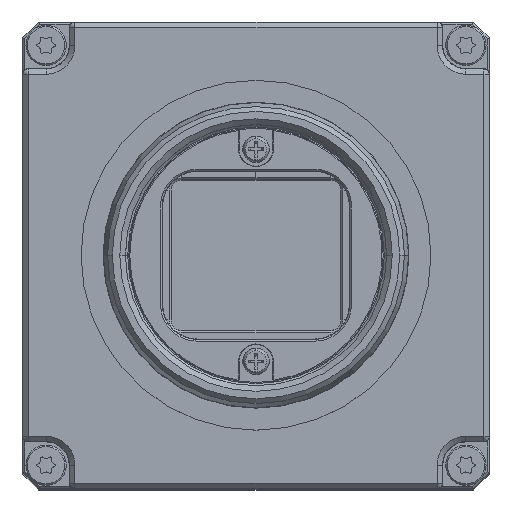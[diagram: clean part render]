
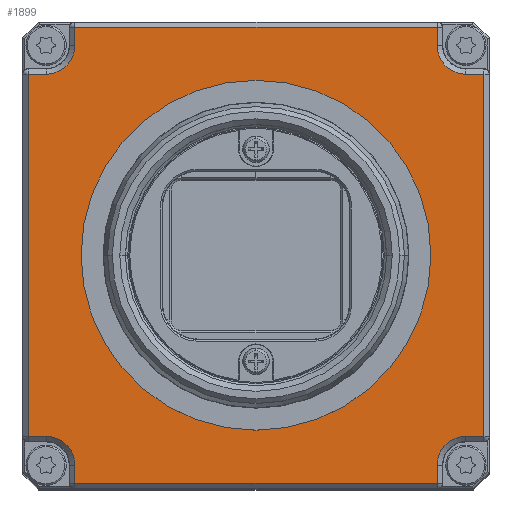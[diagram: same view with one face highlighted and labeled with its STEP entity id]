
A CAD part, top view. The second image highlights one B-rep face of the part: STEP entity #1899.
In plain terms, the highlighted planar face has unit normal (0, 0, 1).
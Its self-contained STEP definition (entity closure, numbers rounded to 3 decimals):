
#68 = VERTEX_POINT ( 'NONE', #13217 ) ;
#119 = CARTESIAN_POINT ( 'NONE',  ( 0., 0., 10.3 ) ) ;
#227 = AXIS2_PLACEMENT_3D ( 'NONE', #3981, #16248, #7164 ) ;
#256 = EDGE_CURVE ( 'NONE', #4277, #19617, #3229, .T. ) ;
#445 = DIRECTION ( 'NONE',  ( 1., 0., 0. ) ) ;
#492 = AXIS2_PLACEMENT_3D ( 'NONE', #7019, #13968, #21543 ) ;
#704 = VECTOR ( 'NONE', #13664, 1000. ) ;
#776 = CARTESIAN_POINT ( 'NONE',  ( 17.065, -21.5, 10.3 ) ) ;
#1015 = CARTESIAN_POINT ( 'NONE',  ( -21.5, 17.074, 10.3 ) ) ;
#1035 = CIRCLE ( 'NONE', #3951, 16.5 ) ;
#1262 = CARTESIAN_POINT ( 'NONE',  ( 21.5, -17.074, 10.3 ) ) ;
#1665 = LINE ( 'NONE', #13731, #7959 ) ;
#1710 = EDGE_CURVE ( 'NONE', #68, #19182, #18414, .T. ) ;
#1789 = ORIENTED_EDGE ( 'NONE', *, *, #13455, .T. ) ;
#1811 = EDGE_CURVE ( 'NONE', #7156, #18669, #9795, .T. ) ;
#1859 = CARTESIAN_POINT ( 'NONE',  ( 19.8, 19.8, 10.3 ) ) ;
#1899 = ADVANCED_FACE ( 'NONE', ( #17828, #11350 ), #21460, .T. ) ;
#1985 = EDGE_CURVE ( 'NONE', #7977, #15657, #11688, .T. ) ;
#2062 = VERTEX_POINT ( 'NONE', #18495 ) ;
#2178 = CARTESIAN_POINT ( 'NONE',  ( -17.065, 21.5, 10.3 ) ) ;
#2211 = LINE ( 'NONE', #9134, #20066 ) ;
#2435 = CARTESIAN_POINT ( 'NONE',  ( -19.8, 17.074, 10.3 ) ) ;
#2441 = ORIENTED_EDGE ( 'NONE', *, *, #1811, .F. ) ;
#2593 = CARTESIAN_POINT ( 'NONE',  ( 21.5, -17.074, 10.3 ) ) ;
#2816 = ORIENTED_EDGE ( 'NONE', *, *, #17441, .T. ) ;
#2904 = ORIENTED_EDGE ( 'NONE', *, *, #11485, .T. ) ;
#2936 = LINE ( 'NONE', #776, #18261 ) ;
#2946 = CARTESIAN_POINT ( 'NONE',  ( 0., 0., 10.3 ) ) ;
#2978 = CARTESIAN_POINT ( 'NONE',  ( 21.5, 17.074, 10.3 ) ) ;
#3053 = CARTESIAN_POINT ( 'NONE',  ( -17.074, 19.8, 10.3 ) ) ;
#3157 = EDGE_CURVE ( 'NONE', #18669, #7156, #1035, .T. ) ;
#3229 = LINE ( 'NONE', #12980, #18541 ) ;
#3289 = CARTESIAN_POINT ( 'NONE',  ( -21.5, -17.074, 10.3 ) ) ;
#3658 = EDGE_CURVE ( 'NONE', #10002, #10578, #1665, .T. ) ;
#3951 = AXIS2_PLACEMENT_3D ( 'NONE', #2946, #20425, #13297 ) ;
#3981 = CARTESIAN_POINT ( 'NONE',  ( -19.8, 19.8, 10.3 ) ) ;
#4277 = VERTEX_POINT ( 'NONE', #3289 ) ;
#4386 = ORIENTED_EDGE ( 'NONE', *, *, #21601, .T. ) ;
#4429 = CARTESIAN_POINT ( 'NONE',  ( 0., 0., 10.3 ) ) ;
#4467 = AXIS2_PLACEMENT_3D ( 'NONE', #1859, #7199, #5152 ) ;
#4535 = CARTESIAN_POINT ( 'NONE',  ( 19.8, 17.074, 10.3 ) ) ;
#4717 = VECTOR ( 'NONE', #6687, 1000. ) ;
#4928 = CIRCLE ( 'NONE', #227, 2.726 ) ;
#5039 = CARTESIAN_POINT ( 'NONE',  ( -19.8, -17.074, 10.3 ) ) ;
#5111 = CARTESIAN_POINT ( 'NONE',  ( 16.5, 0., 10.3 ) ) ;
#5152 = DIRECTION ( 'NONE',  ( 1., 0., 0. ) ) ;
#5204 = EDGE_CURVE ( 'NONE', #2062, #10002, #10472, .T. ) ;
#5468 = ORIENTED_EDGE ( 'NONE', *, *, #14800, .T. ) ;
#5645 = EDGE_CURVE ( 'NONE', #20479, #68, #14289, .T. ) ;
#5685 = DIRECTION ( 'NONE',  ( 1., 0., 0. ) ) ;
#6069 = ORIENTED_EDGE ( 'NONE', *, *, #5204, .T. ) ;
#6246 = ORIENTED_EDGE ( 'NONE', *, *, #12795, .T. ) ;
#6687 = DIRECTION ( 'NONE',  ( -1., 0., 0. ) ) ;
#7019 = CARTESIAN_POINT ( 'NONE',  ( 19.8, -19.8, 10.3 ) ) ;
#7156 = VERTEX_POINT ( 'NONE', #5111 ) ;
#7164 = DIRECTION ( 'NONE',  ( 1., 0., 0. ) ) ;
#7199 = DIRECTION ( 'NONE',  ( 0., 0., -1. ) ) ;
#7374 = DIRECTION ( 'NONE',  ( 0., 0., 1. ) ) ;
#7525 = DIRECTION ( 'NONE',  ( 1., 0., 0. ) ) ;
#7703 = DIRECTION ( 'NONE',  ( 1., 0., 0. ) ) ;
#7959 = VECTOR ( 'NONE', #15651, 1000. ) ;
#7977 = VERTEX_POINT ( 'NONE', #2435 ) ;
#8090 = VERTEX_POINT ( 'NONE', #2978 ) ;
#8095 = CARTESIAN_POINT ( 'NONE',  ( -21.5, 17.074, 10.3 ) ) ;
#8322 = CARTESIAN_POINT ( 'NONE',  ( -17.074, -21.5, 10.3 ) ) ;
#8351 = VERTEX_POINT ( 'NONE', #16373 ) ;
#9134 = CARTESIAN_POINT ( 'NONE',  ( -17.074, -21.5, 10.3 ) ) ;
#9618 = ORIENTED_EDGE ( 'NONE', *, *, #14959, .T. ) ;
#9795 = CIRCLE ( 'NONE', #11256, 16.5 ) ;
#10002 = VERTEX_POINT ( 'NONE', #11573 ) ;
#10376 = LINE ( 'NONE', #22175, #13204 ) ;
#10472 = CIRCLE ( 'NONE', #4467, 2.726 ) ;
#10568 = CARTESIAN_POINT ( 'NONE',  ( 17.074, -19.8, 10.3 ) ) ;
#10578 = VERTEX_POINT ( 'NONE', #12979 ) ;
#10686 = DIRECTION ( 'NONE',  ( 1., 0., 0. ) ) ;
#10779 = ORIENTED_EDGE ( 'NONE', *, *, #1985, .T. ) ;
#10959 = EDGE_CURVE ( 'NONE', #8351, #20479, #19190, .T. ) ;
#11256 = AXIS2_PLACEMENT_3D ( 'NONE', #119, #19294, #10686 ) ;
#11350 = FACE_BOUND ( 'NONE', #18222, .T. ) ;
#11485 = EDGE_CURVE ( 'NONE', #11907, #18433, #2211, .T. ) ;
#11573 = CARTESIAN_POINT ( 'NONE',  ( 17.074, 19.8, 10.3 ) ) ;
#11688 = LINE ( 'NONE', #1015, #4717 ) ;
#11716 = EDGE_CURVE ( 'NONE', #15657, #4277, #10376, .T. ) ;
#11806 = VECTOR ( 'NONE', #20018, 1000. ) ;
#11907 = VERTEX_POINT ( 'NONE', #19971 ) ;
#12065 = DIRECTION ( 'NONE',  ( -1., 0., 0. ) ) ;
#12175 = VECTOR ( 'NONE', #16458, 1000. ) ;
#12361 = VERTEX_POINT ( 'NONE', #13593 ) ;
#12385 = DIRECTION ( 'NONE',  ( 0., 1., 0. ) ) ;
#12538 = ORIENTED_EDGE ( 'NONE', *, *, #5645, .T. ) ;
#12586 = ORIENTED_EDGE ( 'NONE', *, *, #3157, .F. ) ;
#12795 = EDGE_CURVE ( 'NONE', #19182, #8090, #14821, .T. ) ;
#12847 = ORIENTED_EDGE ( 'NONE', *, *, #10959, .T. ) ;
#12979 = CARTESIAN_POINT ( 'NONE',  ( 17.074, 21.5, 10.3 ) ) ;
#12980 = CARTESIAN_POINT ( 'NONE',  ( -19.8, -17.074, 10.3 ) ) ;
#13067 = LINE ( 'NONE', #3053, #15422 ) ;
#13204 = VECTOR ( 'NONE', #13553, 1000. ) ;
#13216 = AXIS2_PLACEMENT_3D ( 'NONE', #19636, #19414, #5685 ) ;
#13217 = CARTESIAN_POINT ( 'NONE',  ( 19.8, -17.074, 10.3 ) ) ;
#13297 = DIRECTION ( 'NONE',  ( 1., 0., 0. ) ) ;
#13455 = EDGE_CURVE ( 'NONE', #12361, #7977, #4928, .T. ) ;
#13553 = DIRECTION ( 'NONE',  ( 0., -1., 0. ) ) ;
#13593 = CARTESIAN_POINT ( 'NONE',  ( -17.074, 19.8, 10.3 ) ) ;
#13664 = DIRECTION ( 'NONE',  ( 1., 0., 0. ) ) ;
#13731 = CARTESIAN_POINT ( 'NONE',  ( 17.074, 21.5, 10.3 ) ) ;
#13968 = DIRECTION ( 'NONE',  ( 0., 0., -1. ) ) ;
#14289 = CIRCLE ( 'NONE', #492, 2.726 ) ;
#14688 = CIRCLE ( 'NONE', #13216, 2.726 ) ;
#14800 = EDGE_CURVE ( 'NONE', #19617, #11907, #14688, .T. ) ;
#14821 = LINE ( 'NONE', #18650, #11806 ) ;
#14959 = EDGE_CURVE ( 'NONE', #19490, #12361, #13067, .T. ) ;
#15422 = VECTOR ( 'NONE', #22136, 1000. ) ;
#15601 = CARTESIAN_POINT ( 'NONE',  ( -16.5, 0., 10.3 ) ) ;
#15651 = DIRECTION ( 'NONE',  ( 0., 1., 0. ) ) ;
#15657 = VERTEX_POINT ( 'NONE', #8095 ) ;
#15666 = CARTESIAN_POINT ( 'NONE',  ( 17.074, -19.8, 10.3 ) ) ;
#16042 = EDGE_LOOP ( 'NONE', ( #2816, #9618, #1789, #10779, #21422, #19274, #5468, #2904, #17367, #12847, #12538, #17347, #6246, #4386, #6069, #16372 ) ) ;
#16248 = DIRECTION ( 'NONE',  ( 0., 0., -1. ) ) ;
#16372 = ORIENTED_EDGE ( 'NONE', *, *, #3658, .T. ) ;
#16373 = CARTESIAN_POINT ( 'NONE',  ( 17.074, -21.5, 10.3 ) ) ;
#16458 = DIRECTION ( 'NONE',  ( -1., 0., 0. ) ) ;
#16558 = VECTOR ( 'NONE', #12065, 1000. ) ;
#17213 = VECTOR ( 'NONE', #12385, 1000. ) ;
#17347 = ORIENTED_EDGE ( 'NONE', *, *, #1710, .T. ) ;
#17367 = ORIENTED_EDGE ( 'NONE', *, *, #20429, .T. ) ;
#17441 = EDGE_CURVE ( 'NONE', #10578, #19490, #20696, .T. ) ;
#17764 = AXIS2_PLACEMENT_3D ( 'NONE', #4429, #7374, #445 ) ;
#17828 = FACE_OUTER_BOUND ( 'NONE', #16042, .T. ) ;
#17990 = DIRECTION ( 'NONE',  ( 0., -1., 0. ) ) ;
#18222 = EDGE_LOOP ( 'NONE', ( #12586, #2441 ) ) ;
#18261 = VECTOR ( 'NONE', #7703, 1000. ) ;
#18414 = LINE ( 'NONE', #1262, #704 ) ;
#18433 = VERTEX_POINT ( 'NONE', #8322 ) ;
#18495 = CARTESIAN_POINT ( 'NONE',  ( 19.8, 17.074, 10.3 ) ) ;
#18541 = VECTOR ( 'NONE', #7525, 1000. ) ;
#18650 = CARTESIAN_POINT ( 'NONE',  ( 21.5, 17.065, 10.3 ) ) ;
#18669 = VERTEX_POINT ( 'NONE', #15601 ) ;
#19182 = VERTEX_POINT ( 'NONE', #2593 ) ;
#19190 = LINE ( 'NONE', #10568, #17213 ) ;
#19274 = ORIENTED_EDGE ( 'NONE', *, *, #256, .T. ) ;
#19294 = DIRECTION ( 'NONE',  ( 0., 0., 1. ) ) ;
#19414 = DIRECTION ( 'NONE',  ( 0., 0., -1. ) ) ;
#19490 = VERTEX_POINT ( 'NONE', #21829 ) ;
#19617 = VERTEX_POINT ( 'NONE', #5039 ) ;
#19636 = CARTESIAN_POINT ( 'NONE',  ( -19.8, -19.8, 10.3 ) ) ;
#19971 = CARTESIAN_POINT ( 'NONE',  ( -17.074, -19.8, 10.3 ) ) ;
#20018 = DIRECTION ( 'NONE',  ( 0., 1., 0. ) ) ;
#20066 = VECTOR ( 'NONE', #17990, 1000. ) ;
#20080 = LINE ( 'NONE', #4535, #12175 ) ;
#20425 = DIRECTION ( 'NONE',  ( 0., 0., 1. ) ) ;
#20429 = EDGE_CURVE ( 'NONE', #18433, #8351, #2936, .T. ) ;
#20479 = VERTEX_POINT ( 'NONE', #15666 ) ;
#20696 = LINE ( 'NONE', #2178, #16558 ) ;
#21422 = ORIENTED_EDGE ( 'NONE', *, *, #11716, .T. ) ;
#21460 = PLANE ( 'NONE',  #17764 ) ;
#21543 = DIRECTION ( 'NONE',  ( 1., 0., 0. ) ) ;
#21601 = EDGE_CURVE ( 'NONE', #8090, #2062, #20080, .T. ) ;
#21829 = CARTESIAN_POINT ( 'NONE',  ( -17.074, 21.5, 10.3 ) ) ;
#22136 = DIRECTION ( 'NONE',  ( 0., -1., 0. ) ) ;
#22175 = CARTESIAN_POINT ( 'NONE',  ( -21.5, -17.065, 10.3 ) ) ;
